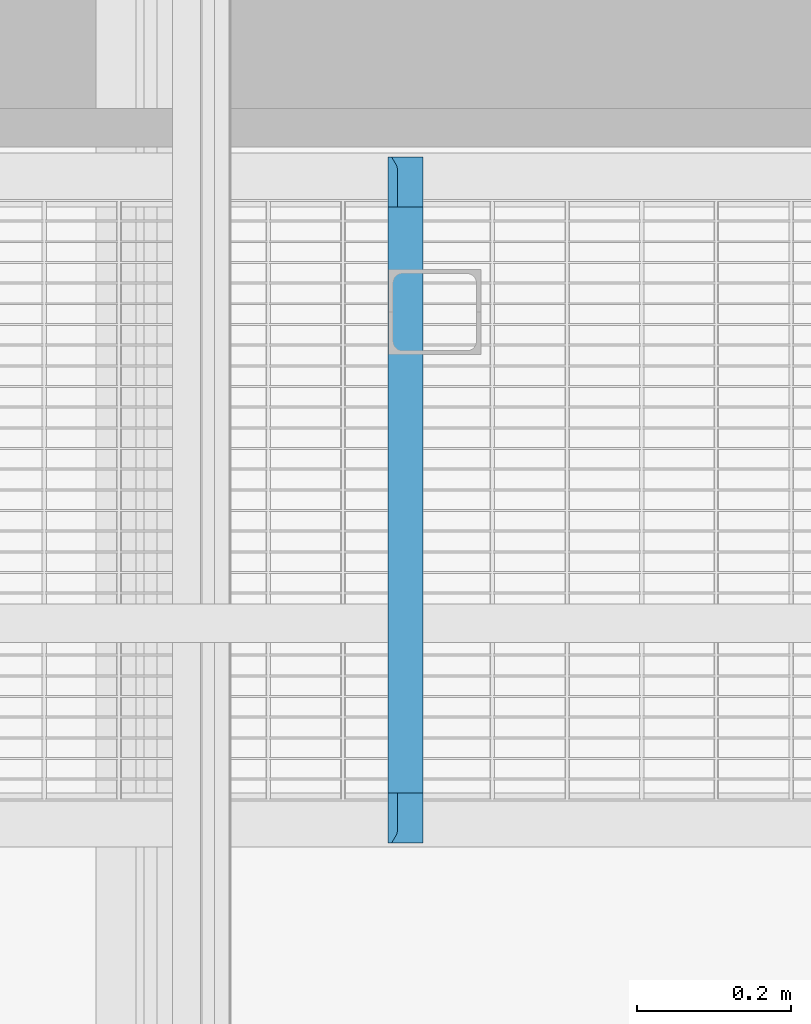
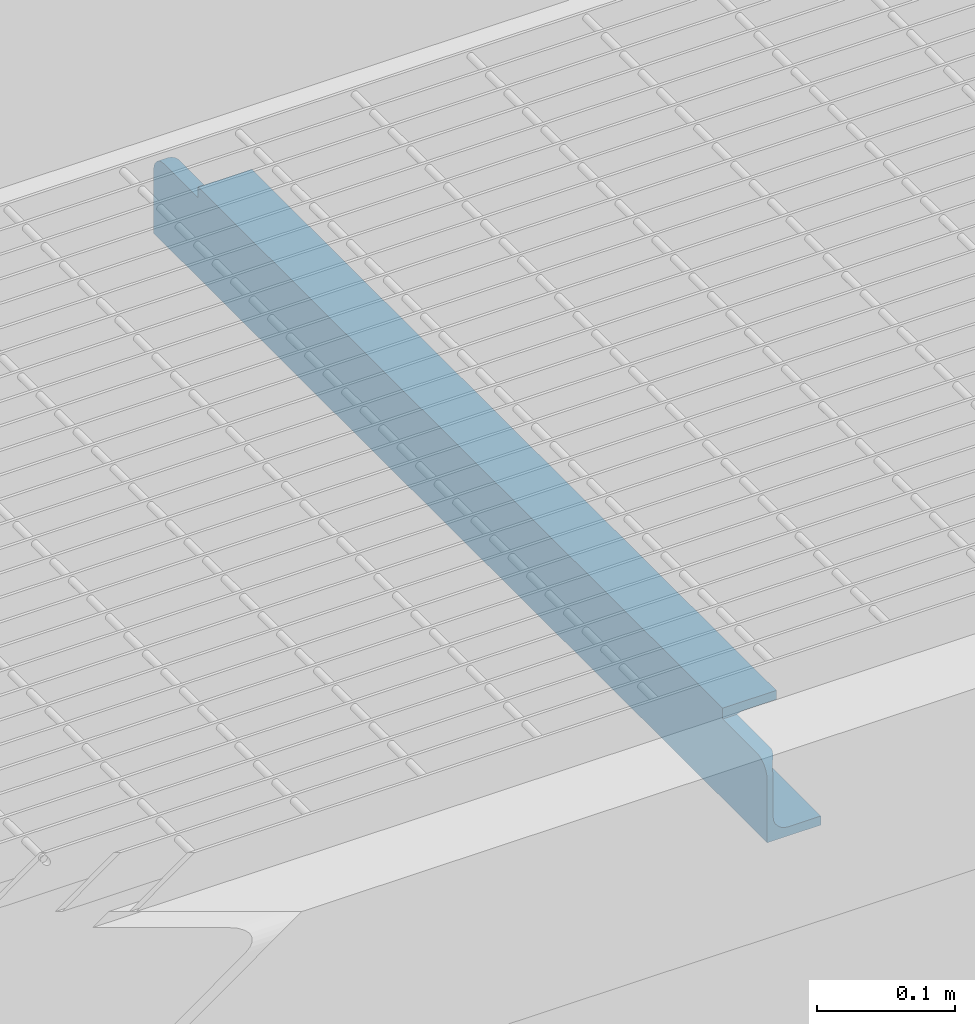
# One storey, part 49 of 75: 1 beam.
"""IFC2X3 building model written with IfcOpenShell, lengths in metres."""

from ifc_helpers import new_model, entity, si_unit, converted_unit, derived_unit, direction, frame, origin, place, context, subcontext, project, spatial, faceted_brep, material, type_object, element, save


model = new_model("IFC2X3")

# Units and contexts
model_context = context("Model", 3, precision=1e-05, world=origin(), true_north=direction((6.12303176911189e-17, 1.0)))
body_context = subcontext(model_context, "Body", "Model", "MODEL_VIEW")
ifc_project = project(units=[si_unit("LENGTHUNIT", "METRE"), si_unit("AREAUNIT", "SQUARE_METRE"), si_unit("VOLUMEUNIT", "CUBIC_METRE"), converted_unit("PLANEANGLEUNIT", "DEGREE", entity("IfcRatioMeasure", 0.0174532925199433), si_unit("PLANEANGLEUNIT", "RADIAN"), dimensions=[0, 0, 0, 0, 0, 0, 0]), si_unit("MASSUNIT", "GRAM", prefix="KILO"), derived_unit("MASSDENSITYUNIT", [(si_unit("MASSUNIT", "GRAM", prefix="KILO"), 1), (si_unit("LENGTHUNIT", "METRE"), -3)]), derived_unit("MOMENTOFINERTIAUNIT", [(si_unit("LENGTHUNIT", "METRE"), 4)]), si_unit("TIMEUNIT", "SECOND"), si_unit("FREQUENCYUNIT", "HERTZ"), si_unit("THERMODYNAMICTEMPERATUREUNIT", "DEGREE_CELSIUS"), derived_unit("THERMALTRANSMITTANCEUNIT", [(si_unit("MASSUNIT", "GRAM", prefix="KILO"), 1), (si_unit("THERMODYNAMICTEMPERATUREUNIT", "KELVIN"), -1), (si_unit("TIMEUNIT", "SECOND"), -3)]), derived_unit("VOLUMETRICFLOWRATEUNIT", [(si_unit("LENGTHUNIT", "METRE"), 3), (si_unit("TIMEUNIT", "SECOND"), -1)]), si_unit("ELECTRICCURRENTUNIT", "AMPERE"), si_unit("ELECTRICVOLTAGEUNIT", "VOLT"), si_unit("POWERUNIT", "WATT"), si_unit("FORCEUNIT", "NEWTON", prefix="KILO"), si_unit("ILLUMINANCEUNIT", "LUX"), si_unit("LUMINOUSFLUXUNIT", "LUMEN"), si_unit("LUMINOUSINTENSITYUNIT", "CANDELA"), derived_unit("USERDEFINED", [(si_unit("MASSUNIT", "GRAM", prefix="KILO"), -1), (si_unit("LENGTHUNIT", "METRE"), -2), (si_unit("TIMEUNIT", "SECOND"), 3), (si_unit("LUMINOUSFLUXUNIT", "LUMEN"), 1)]), derived_unit("LINEARVELOCITYUNIT", [(si_unit("LENGTHUNIT", "METRE"), 1), (si_unit("TIMEUNIT", "SECOND"), -1)]), si_unit("PRESSUREUNIT", "PASCAL"), derived_unit("USERDEFINED", [(si_unit("LENGTHUNIT", "METRE"), -2), (si_unit("MASSUNIT", "GRAM", prefix="KILO"), 1), (si_unit("TIMEUNIT", "SECOND"), -2)]), derived_unit("LINEARFORCEUNIT", [(si_unit("MASSUNIT", "GRAM", prefix="KILO"), 1), (si_unit("LENGTHUNIT", "METRE"), 1), (si_unit("TIMEUNIT", "SECOND"), -2), (si_unit("LENGTHUNIT", "METRE"), -1)]), derived_unit("PLANARFORCEUNIT", [(si_unit("MASSUNIT", "GRAM", prefix="KILO"), 1), (si_unit("LENGTHUNIT", "METRE"), 1), (si_unit("TIMEUNIT", "SECOND"), -2), (si_unit("LENGTHUNIT", "METRE"), -2)])], contexts=[model_context])

# Site, building, storey
site_placement = place(None, origin())
site = spatial("IfcSite", under=ifc_project, at=site_placement, Name="Superficie", CompositionType="ELEMENT")
building_placement = place(site_placement, origin())
building = spatial("IfcBuilding", under=site, at=building_placement, Name="Telegestiones", CompositionType="ELEMENT")
storey_placement = place(building_placement, origin())
storey = spatial("IfcBuildingStorey", under=building, at=storey_placement, Name="Nivel 0_NPT", CompositionType="ELEMENT", Elevation=0.0)

# Beam
ifc_material = material(Name="Metal - Acero - 345 MPa")
beam_type = type_object("IfcBeamType", Name="U-Canales de ala paralela:UAP80", PredefinedType="NOTDEFINED")
beam_placement = place(storey_placement, frame((9.58428977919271, 12.7896119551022, 17.78), z_axis=(0.0, 0.0, 1.0), x_axis=(0.0, -1.0, 0.0)))
element("IfcBeam", 1, at=beam_placement, inside=storey, type_object=beam_type, material=ifc_material, Name="U-Canales de ala paralela:UAP80", ObjectType="U-Canales de ala paralela:UAP80", context=body_context, shape_type="Brep", body=[
    faceted_brep([(-0.826495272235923, 0.0, 0.0799999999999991), (-0.0660952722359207, 0.0, 0.0799999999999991), (-0.0660952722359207, 0.0450000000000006, 0.0799999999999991), (-0.826495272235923, 0.0450000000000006, 0.0799999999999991), (-0.0660952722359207, 0.0450000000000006, 0.0719999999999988), (-0.826495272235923, 0.0450000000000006, 0.0719999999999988), (-0.890995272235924, 0.0450000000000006, 0.00799999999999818), (-0.00159527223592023, 0.0450000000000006, 0.00799999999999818), (-0.00159527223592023, 0.0450000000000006, 0.0), (-0.890995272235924, 0.0450000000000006, 0.0), (-0.0660952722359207, 0.0180000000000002, 0.0719999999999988), (-0.129042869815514, 0.0180000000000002, 0.0719999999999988), (-0.194504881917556, 0.0180000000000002, 0.0719999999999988), (-0.322914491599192, 0.0180000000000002, 0.072000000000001), (-0.448809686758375, 0.0180000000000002, 0.072000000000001), (-0.574704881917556, 0.0180000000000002, 0.0719999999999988), (-0.70060007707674, 0.0179999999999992, 0.0719999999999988), (-0.76354767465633, 0.0180000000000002, 0.0719999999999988), (-0.826495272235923, 0.0180000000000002, 0.0719999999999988), (-0.12553856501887, 0.00873473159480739, 0.068118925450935), (-0.0101009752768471, 0.00971902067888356, 0.0690212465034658), (-0.00742207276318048, 0.00805140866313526, 0.0673681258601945), (-0.544496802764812, 0.00667192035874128, 0.0653776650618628), (-0.463938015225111, 0.00590908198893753, 0.0637759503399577), (-0.537250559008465, 0.00560250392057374, 0.0629117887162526), (-0.792841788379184, 0.00525335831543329, 0.0615540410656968), (-0.794333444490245, 0.00499999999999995, 0.0589999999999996), (-0.890581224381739, 0.00499999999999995, 0.0589999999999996), (-0.0660952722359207, 0.0119378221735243, 0.0705000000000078), (-0.138879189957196, 0.0108749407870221, 0.0698735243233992), (-0.289884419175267, 0.00818591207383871, 0.0675254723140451), (-0.235889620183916, 0.00983678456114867, 0.069117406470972), (-0.221638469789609, 0.00711297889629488, 0.0661044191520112), (-0.828558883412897, 0.0058846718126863, 0.0637136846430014), (-0.754390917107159, 0.00586488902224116, 0.0636625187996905), (-0.122770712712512, 0.00586898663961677, 0.0636731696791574), (-0.00509743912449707, 0.00653775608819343, 0.0651332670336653), (-0.00323111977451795, 0.00542889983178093, 0.0623117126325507), (-0.139947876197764, 0.0133736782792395, 0.0711489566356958), (-0.0660952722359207, 0.0148775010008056, 0.0716194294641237), (-0.826495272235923, 0.0148775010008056, 0.0716194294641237), (-0.725206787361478, 0.00705428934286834, 0.0660136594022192), (-0.806359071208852, 0.00719021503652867, 0.0662213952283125), (-0.751388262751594, 0.00871967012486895, 0.0681035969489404), (-0.821941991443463, 0.00878771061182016, 0.0681724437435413), (-0.732073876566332, 0.0157137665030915, 0.0717973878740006), (-0.656588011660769, 0.0158751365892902, 0.0718251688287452), (-0.887493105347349, 0.00653775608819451, 0.0651332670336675), (-0.885168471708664, 0.00805140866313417, 0.0673681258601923), (-0.153627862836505, 0.00681728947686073, 0.0656292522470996), (-0.0853009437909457, 0.00708655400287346, 0.0660637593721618), (-0.224070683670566, 0.00557806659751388, 0.0628334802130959), (-0.325005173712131, 0.00685931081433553, 0.065699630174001), (-0.889359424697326, 0.00542889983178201, 0.0623117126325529), (-0.0165952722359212, 0.0119378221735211, 0.0705000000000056), (-0.0131474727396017, 0.0112305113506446, 0.0700983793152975), (-0.875995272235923, 0.0119378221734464, 0.0704999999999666), (-0.826495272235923, 0.0119378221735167, 0.0705000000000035), (-0.879443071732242, 0.0112305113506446, 0.0700983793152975), (-0.399580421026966, 0.00536884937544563, 0.0620747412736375), (-0.393044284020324, 0.00621995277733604, 0.0644982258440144), (-0.226657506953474, 0.0133736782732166, 0.0711489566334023), (-0.161773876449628, 0.0157225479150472, 0.0717989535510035), (-0.753654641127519, 0.0133736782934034, 0.0711489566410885), (-0.667805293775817, 0.013373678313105, 0.0711489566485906), (-0.710729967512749, 0.0108989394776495, 0.069889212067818), (-0.882489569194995, 0.00971902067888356, 0.0690212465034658), (-0.391078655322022, 0.0147556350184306, 0.0715886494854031), (-0.511757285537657, 0.0147219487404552, 0.0715799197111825), (-0.447231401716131, 0.0116878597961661, 0.0703647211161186), (-0.155370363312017, 0.0052262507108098, 0.0614148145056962), (-0.0802317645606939, 0.00520855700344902, 0.0613192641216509), (-0.127904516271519, 0.00499999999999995, 0.0589999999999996), (-0.718094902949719, 0.00523967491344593, 0.0614847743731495), (-0.664663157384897, 0.00890351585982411, 0.0682873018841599), (-0.313827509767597, 0.0152996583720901, 0.0717164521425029), (-0.236634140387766, 0.0158580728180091, 0.0718223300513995), (-0.567112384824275, 0.0113077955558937, 0.0701451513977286), (-0.449925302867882, 0.00716471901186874, 0.0661830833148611), (-0.331012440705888, 0.0117612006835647, 0.0704051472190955), (-0.00200932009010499, 0.00499999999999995, 0.0589999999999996), (-0.374671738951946, 0.00795566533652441, 0.0672529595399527), (-0.339861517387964, 0.00960203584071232, 0.0689234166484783), (-0.495796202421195, 0.00856943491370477, 0.0679478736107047), (-0.419671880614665, 0.00955595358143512, 0.068884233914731), (-0.591450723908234, 0.0142535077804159, 0.0714484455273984), (-0.637692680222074, 0.0107328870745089, 0.0697791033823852), (-0.581126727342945, 0.00847032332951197, 0.0678422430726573), (-0.614951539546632, 0.00554163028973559, 0.0627133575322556), (-0.479382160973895, 0.00521908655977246, 0.0613766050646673), (-0.636994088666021, 0.00709380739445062, 0.0660749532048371), (-0.601837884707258, 0.00499999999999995, 0.0589999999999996), (-0.698085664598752, 0.00499999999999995, 0.0589999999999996), (-0.682236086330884, 0.00583156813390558, 0.0635748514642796), (-0.505590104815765, 0.00499999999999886, 0.0589999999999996), (-0.327209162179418, 0.00576169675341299, 0.0633845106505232), (-0.253799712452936, 0.00499999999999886, 0.0589999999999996), (-0.37969490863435, 0.00500000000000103, 0.0590000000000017), (-0.00159527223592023, 0.00499999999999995, 0.0209999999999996), (-0.127490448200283, 0.00499999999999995, 0.0209999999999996), (-0.253385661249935, 0.00499999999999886, 0.0209999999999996), (-0.320400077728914, 0.00499999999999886, 0.0209999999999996), (-0.387414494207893, 0.00499999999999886, 0.0209999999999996), (-0.513309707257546, 0.00500000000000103, 0.0209999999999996), (-0.639204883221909, 0.00499999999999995, 0.0209999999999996), (-0.76510005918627, 0.00499999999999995, 0.0209999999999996), (-0.890995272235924, 0.00499999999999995, 0.0209999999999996), (-0.890995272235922, 0.00499999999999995, 0.0555000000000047), (-0.890891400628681, 0.00499999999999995, 0.0572622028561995), (-0.00169914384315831, 0.00499999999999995, 0.0572622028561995), (-0.00159527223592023, 0.00499999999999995, 0.0555000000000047), (-0.388236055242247, 0.00920187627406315, 0.0114295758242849), (-0.420141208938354, 0.011096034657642, 0.00998477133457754), (-0.464024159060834, 0.00921605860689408, 0.0114165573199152), (-0.890995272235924, 0.00880761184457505, 0.0118076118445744), (-0.890995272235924, 0.00674166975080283, 0.0144999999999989), (-0.786964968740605, 0.00768640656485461, 0.0130861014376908), (-0.804306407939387, 0.0100861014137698, 0.0106864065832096), (-0.890995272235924, 0.00544296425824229, 0.0176353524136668), (-0.816273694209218, 0.00598956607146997, 0.016025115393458), (-0.00159527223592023, 0.0146353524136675, 0.00844296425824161), (-0.0768566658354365, 0.0157610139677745, 0.00819426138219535), (-0.0763168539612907, 0.0130251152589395, 0.00898956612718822), (-0.105625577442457, 0.0100861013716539, 0.0106864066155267), (-0.165692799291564, 0.0130251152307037, 0.00898956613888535), (-0.00159527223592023, 0.00674166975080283, 0.0144999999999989), (-0.00159527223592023, 0.00880761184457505, 0.0118076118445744), (-0.0774699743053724, 0.00768640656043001, 0.0130861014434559), (-0.491536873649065, 0.0150423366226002, 0.00834092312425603), (-0.379280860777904, 0.0180000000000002, 0.00800000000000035), (-0.505176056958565, 0.0180000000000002, 0.00800000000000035), (-0.572190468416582, 0.0180000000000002, 0.00800000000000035), (-0.106404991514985, 0.00598956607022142, 0.0160251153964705), (-0.16781218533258, 0.00768640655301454, 0.0130861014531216), (-0.726897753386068, 0.00598956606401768, 0.0160251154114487), (-0.415715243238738, 0.0136190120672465, 0.00876043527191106), (-0.00159527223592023, 0.00544296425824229, 0.0176353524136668), (-0.629946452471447, 0.00727353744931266, 0.013655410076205), (-0.623291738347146, 0.0100861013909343, 0.0106864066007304), (-0.71379907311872, 0.00916943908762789, 0.0114594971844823), (-0.815364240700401, 0.0157447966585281, 0.00819710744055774), (-0.765100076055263, 0.0180000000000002, 0.00800000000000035), (-0.890995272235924, 0.0180000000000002, 0.00800000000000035), (-0.223685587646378, 0.00938049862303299, 0.0112683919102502), (-0.497288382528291, 0.0118454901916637, 0.0095491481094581), (-0.815733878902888, 0.00519426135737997, 0.0187610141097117), (-0.62282523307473, 0.0056261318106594, 0.0170141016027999), (-0.739798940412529, 0.00523900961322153, 0.0185186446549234), (-0.825493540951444, 0.0130251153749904, 0.00898956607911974), (-0.890995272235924, 0.0146353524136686, 0.00844296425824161), (-0.890995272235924, 0.0115000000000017, 0.00974166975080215), (-0.291212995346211, 0.00780597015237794, 0.012932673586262), (-0.320400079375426, 0.00618096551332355, 0.0155860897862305), (-0.213781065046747, 0.00600332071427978, 0.0159920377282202), (-0.127490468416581, 0.0180000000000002, 0.00800000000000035), (-0.152791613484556, 0.0155186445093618, 0.00823900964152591), (-0.00159527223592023, 0.0115000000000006, 0.00974166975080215), (-0.35572948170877, 0.00536252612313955, 0.0179513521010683), (-0.42447777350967, 0.00577955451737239, 0.0165659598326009), (-0.245152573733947, 0.014745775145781, 0.00841389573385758), (-0.253385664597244, 0.0180000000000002, 0.00800000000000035), (-0.74366920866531, 0.0130251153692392, 0.00898956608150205), (-0.6611676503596, 0.0141261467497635, 0.0085905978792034), (-0.739838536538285, 0.0155359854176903, 0.00823564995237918), (-0.116149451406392, 0.0052490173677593, 0.0184677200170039), (-0.543391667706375, 0.00530657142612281, 0.0181934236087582), (-0.526651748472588, 0.00626721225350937, 0.0154016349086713), (-0.31068915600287, 0.0100861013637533, 0.0106864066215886), (-0.541943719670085, 0.0098668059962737, 0.0108584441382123), (-0.576814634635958, 0.0116725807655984, 0.00964377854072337), (-0.464145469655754, 0.00696148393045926, 0.0141333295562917), (-0.189719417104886, 0.00518314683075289, 0.0188255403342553), (-0.275388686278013, 0.00533514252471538, 0.0180671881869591), (-0.709176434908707, 0.00736354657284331, 0.0135256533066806), (-0.00159527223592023, 0.0180000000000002, 0.00800000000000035), (-0.246681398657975, 0.0118808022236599, 0.00953023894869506), (-0.572190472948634, 0.0139474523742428, 0.00864779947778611), (-0.678131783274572, 0.0116982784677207, 0.00962949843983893), (-0.347807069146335, 0.0156816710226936, 0.00820838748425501), (-0.316333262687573, 0.0180000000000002, 0.00800000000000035), (-0.393617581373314, 0.00746218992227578, 0.013387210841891), (-0.525522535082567, 0.00782776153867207, 0.0129052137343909), (-0.325243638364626, 0.0133243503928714, 0.00886994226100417), (-0.6392048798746, 0.0180000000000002, 0.00800000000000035), (-0.00159527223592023, 0.0, 0.0), (-0.890995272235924, 0.0, 0.0), (-0.0660952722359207, 0.0, 0.0705000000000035), (-0.826495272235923, 0.0, 0.0705000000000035), (-0.875995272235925, 0.0, 0.0705000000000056), (-0.879877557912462, 0.0, 0.0699888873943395), (-0.883495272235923, 0.0, 0.0684903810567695), (-0.88660187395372, 0.0, 0.066106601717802), (-0.888985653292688, 0.0, 0.063000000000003), (-0.890484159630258, 0.0, 0.0593822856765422), (-0.890995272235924, 0.0, 0.0555000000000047), (-0.00159527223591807, 0.0, 0.0555000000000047), (-0.00210638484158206, 0.0, 0.0593822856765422), (-0.00360489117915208, 0.0, 0.0630000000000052), (-0.00598867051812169, 0.0, 0.0661066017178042), (-0.00909527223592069, 0.0, 0.0684903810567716), (-0.0127129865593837, 0.0, 0.0699888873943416), (-0.0165952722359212, 0.0, 0.0705000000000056)], [[[0, 1, 2, 3]], [[3, 2, 4, 5]], [[6, 7, 8, 9]], [[5, 4, 10, 11, 12, 13, 14, 15, 16, 17, 18]], [[19, 20, 21]], [[22, 23, 24]], [[25, 26, 27]], [[28, 19, 29]], [[19, 28, 20]], [[30, 31, 32]], [[33, 34, 25]], [[35, 36, 37]], [[28, 38, 39]], [[11, 10, 39]], [[18, 17, 40]], [[41, 42, 43]], [[43, 42, 44]], [[19, 32, 31]], [[45, 16, 46]], [[42, 47, 48]], [[45, 17, 16]], [[49, 50, 35]], [[51, 52, 32]], [[47, 33, 53]], [[54, 55, 28]], [[56, 57, 58]], [[59, 23, 60]], [[29, 38, 28]], [[61, 62, 38]], [[21, 50, 19]], [[63, 64, 65]], [[63, 57, 40]], [[57, 66, 58]], [[14, 13, 67]], [[35, 50, 36]], [[48, 66, 44]], [[68, 67, 69]], [[70, 71, 72]], [[57, 44, 66]], [[25, 34, 73]], [[55, 20, 28]], [[65, 74, 43]], [[75, 13, 76]], [[35, 37, 71]], [[68, 69, 77]], [[23, 78, 60]], [[47, 42, 33]], [[76, 62, 61]], [[34, 42, 41]], [[48, 44, 42]], [[43, 44, 57]], [[31, 79, 61]], [[25, 73, 26]], [[80, 71, 37]], [[30, 81, 82]], [[83, 77, 69]], [[32, 52, 30]], [[69, 67, 79]], [[79, 82, 84]], [[46, 15, 85]], [[15, 14, 68]], [[77, 85, 68]], [[86, 65, 64]], [[82, 81, 84]], [[87, 86, 77]], [[24, 88, 22]], [[22, 87, 83]], [[89, 23, 59]], [[39, 62, 11]], [[31, 61, 29]], [[43, 57, 65]], [[63, 40, 45]], [[63, 65, 57]], [[43, 74, 41]], [[90, 74, 87]], [[74, 65, 86]], [[90, 87, 22]], [[83, 87, 77]], [[91, 92, 88]], [[78, 23, 22]], [[22, 88, 90]], [[34, 93, 73]], [[94, 91, 24]], [[75, 76, 61]], [[14, 67, 68]], [[25, 27, 53]], [[49, 35, 51]], [[38, 29, 61]], [[29, 19, 31]], [[34, 41, 93]], [[90, 41, 74]], [[12, 11, 62]], [[76, 12, 62]], [[38, 62, 39]], [[76, 13, 12]], [[67, 13, 75]], [[45, 46, 64]], [[17, 45, 40]], [[63, 45, 64]], [[64, 46, 85]], [[46, 16, 15]], [[64, 85, 77]], [[68, 85, 15]], [[89, 24, 23]], [[95, 96, 97]], [[34, 33, 42]], [[33, 25, 53]], [[92, 26, 73]], [[73, 88, 92]], [[88, 73, 93]], [[93, 90, 88]], [[90, 93, 41]], [[74, 86, 87]], [[77, 86, 64]], [[51, 96, 95]], [[72, 96, 70]], [[88, 24, 91]], [[94, 24, 89]], [[89, 97, 94]], [[60, 95, 59]], [[59, 97, 89]], [[59, 95, 97]], [[95, 60, 52]], [[78, 84, 81]], [[60, 78, 81]], [[83, 78, 22]], [[36, 50, 21]], [[32, 19, 49]], [[50, 49, 19]], [[32, 49, 51]], [[35, 71, 70]], [[72, 71, 80]], [[70, 51, 35]], [[51, 70, 96]], [[79, 31, 82]], [[81, 30, 52]], [[30, 82, 31]], [[69, 79, 84]], [[84, 83, 69]], [[83, 84, 78]], [[81, 52, 60]], [[51, 95, 52]], [[75, 79, 67]], [[79, 75, 61]], [[98, 99, 100, 101, 102, 103, 104, 105, 106, 107, 108, 27, 26, 92, 91, 94, 97, 96, 72, 80, 109, 110]], [[111, 112, 113]], [[114, 115, 116]], [[117, 114, 116]], [[115, 118, 119]], [[120, 121, 122]], [[123, 122, 124]], [[125, 126, 127]], [[128, 129, 130, 131]], [[132, 127, 133]], [[134, 116, 119]], [[135, 129, 128]], [[132, 136, 125]], [[137, 138, 139]], [[116, 139, 117]], [[140, 141, 142]], [[143, 133, 123]], [[128, 144, 135]], [[118, 145, 119]], [[134, 146, 137]], [[145, 105, 147]], [[148, 149, 150]], [[151, 152, 153]], [[121, 154, 155]], [[122, 156, 120]], [[157, 152, 158]], [[153, 132, 133]], [[123, 126, 156]], [[159, 155, 160]], [[140, 148, 161]], [[162, 163, 161]], [[164, 99, 98]], [[146, 165, 166]], [[167, 151, 143]], [[168, 144, 169]], [[166, 158, 170]], [[164, 171, 99]], [[171, 172, 100]], [[117, 150, 114]], [[106, 145, 118]], [[173, 137, 139]], [[126, 123, 127]], [[174, 121, 120]], [[167, 143, 175]], [[128, 131, 176]], [[163, 140, 161]], [[161, 177, 162]], [[178, 179, 129]], [[144, 113, 112]], [[150, 117, 148]], [[117, 139, 177]], [[111, 180, 151]], [[137, 181, 138]], [[161, 117, 177]], [[181, 168, 138]], [[166, 137, 146]], [[116, 173, 139]], [[171, 164, 132]], [[153, 152, 172]], [[125, 127, 132]], [[133, 127, 123]], [[158, 165, 103]], [[104, 146, 147]], [[115, 119, 116]], [[104, 165, 146]], [[119, 145, 147]], [[134, 119, 147]], [[105, 145, 106]], [[134, 147, 146]], [[147, 105, 104]], [[156, 122, 123]], [[122, 121, 155]], [[124, 122, 155]], [[154, 121, 174]], [[124, 155, 159]], [[155, 154, 160]], [[159, 175, 124]], [[182, 175, 159]], [[123, 124, 143]], [[160, 179, 159]], [[182, 112, 167]], [[124, 175, 143]], [[151, 153, 133]], [[143, 151, 133]], [[180, 152, 151]], [[152, 180, 158]], [[166, 170, 181]], [[172, 152, 157]], [[102, 158, 103]], [[175, 182, 167]], [[182, 159, 178]], [[129, 135, 178]], [[179, 178, 159]], [[182, 178, 135]], [[149, 148, 140]], [[161, 148, 117]], [[149, 140, 142]], [[163, 141, 140]], [[163, 183, 141]], [[162, 176, 183]], [[163, 162, 183]], [[162, 177, 169]], [[176, 162, 169]], [[138, 177, 139]], [[173, 134, 137]], [[173, 116, 134]], [[153, 172, 171]], [[157, 101, 172]], [[153, 171, 132]], [[99, 171, 100]], [[157, 158, 102]], [[164, 136, 132]], [[136, 164, 98]], [[166, 165, 158]], [[103, 165, 104]], [[131, 183, 176]], [[144, 112, 135]], [[113, 144, 168]], [[144, 128, 176]], [[181, 113, 168]], [[138, 168, 169]], [[180, 113, 170]], [[166, 181, 137]], [[138, 169, 177]], [[176, 169, 144]], [[181, 170, 113]], [[180, 170, 158]], [[135, 112, 182]], [[180, 111, 113]], [[111, 167, 112]], [[167, 111, 151]], [[100, 172, 101]], [[157, 102, 101]], [[6, 142, 141, 183, 131, 130, 129, 179, 160, 154, 174, 7]], [[9, 8, 184, 185]], [[186, 1, 0, 187, 188, 189, 190, 191, 192, 193, 194, 185, 184, 195, 196, 197, 198, 199, 200, 201]], [[28, 39, 10, 4, 2, 1, 186]], [[28, 186, 201, 54]], [[57, 56, 188, 187]], [[201, 200, 55]], [[199, 198, 21]], [[200, 199, 20]], [[54, 201, 55]], [[55, 200, 20]], [[199, 21, 20]], [[198, 36, 21]], [[37, 197, 196]], [[109, 196, 195]], [[196, 109, 80]], [[37, 196, 80]], [[37, 36, 197]], [[110, 109, 195]], [[197, 36, 198]], [[98, 110, 195, 184, 8, 7, 174, 120, 156, 126, 125, 136]], [[118, 115, 114, 150, 149, 142, 6, 9, 185, 194, 107, 106]], [[108, 107, 194]], [[108, 194, 193]], [[53, 193, 192]], [[27, 108, 193]], [[47, 53, 192]], [[27, 193, 53]], [[192, 191, 47]], [[191, 190, 48]], [[189, 188, 58]], [[190, 189, 66]], [[48, 190, 66]], [[58, 66, 189]], [[56, 58, 188]], [[191, 48, 47]], [[57, 187, 0, 3, 5, 18, 40]]]),
])

save(model, "model.ifc")
